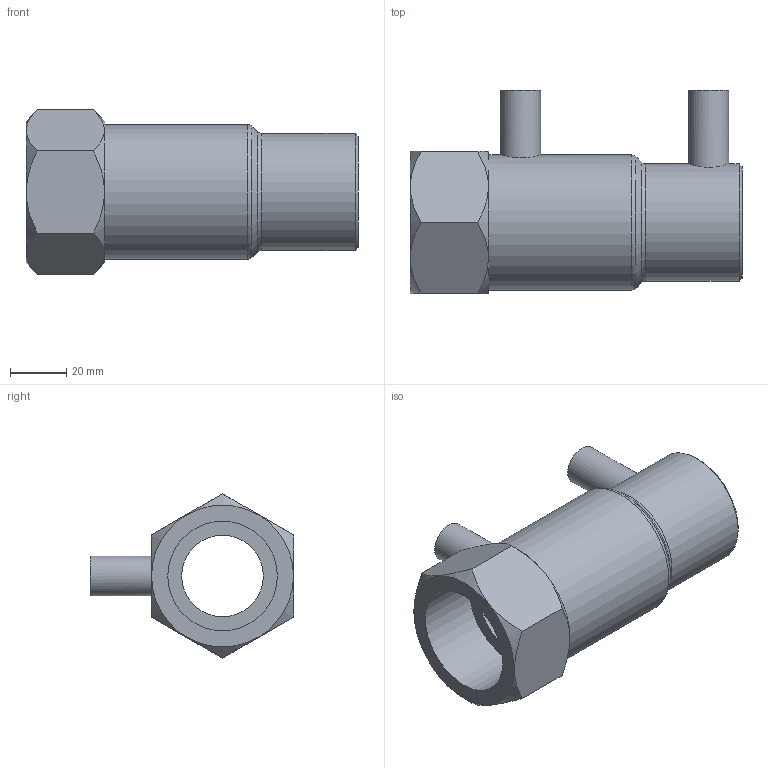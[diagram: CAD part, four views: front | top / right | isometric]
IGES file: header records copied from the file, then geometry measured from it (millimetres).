
Global section: file name: 493104032013.ipt; native system: Autodesk Inventor 2019; preprocessor: unknown; author: Lenora; date: 20210307.201121; units: millimetre
Bounding box: 118 x 72.3 x 58.43 mm (x, y, z)
Volume: 118230.4 mm3; surface area: 35061.4 mm2
Topology: 1 solids, 1 shells, 30 faces, 78 edges, 55 vertices
Faces by surface type: plane 15, revolution 7, cone 4, cylinder 4
Full cylindrical faces by diameter (mm): 14.16 x2, 41.6 x1, 48 x1
